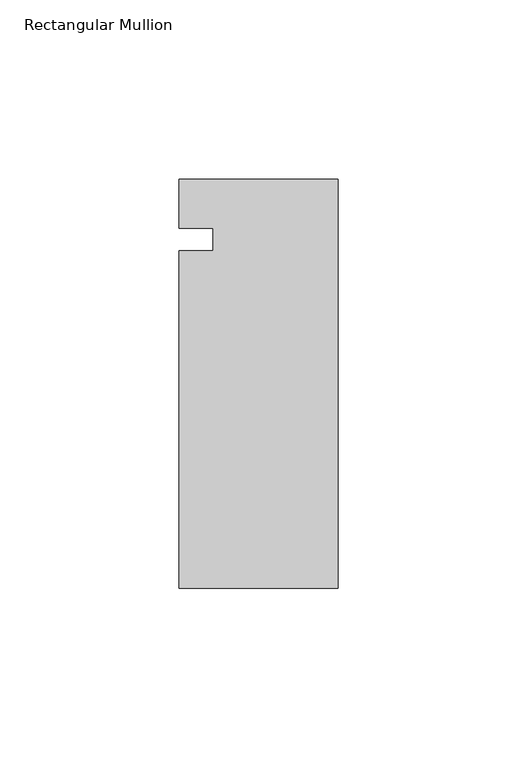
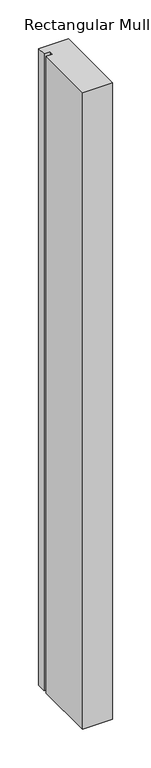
"""IFC4 building model written with IfcOpenShell, lengths in millimetres: member geometry, Rectangular Mullion : Kawneer-TRIFAB_VG_450_BACK_SB_Sill."""

from ifc_helpers import new_model, si_unit, frame, origin, place, context, project, spatial, polyline, outline, extrude, source, transform, mapped, element, save


def rectangular_mullion_f3aea93a(model_context):
    return source(origin(), model_context, "Body", "SweptSolid", [
        extrude(outline(polyline([(-44.45, 16.8840492), (0.0, 16.8840492), (0.0, -97.4159508), (-44.45, -97.4159508), (-44.45, -3.175), (-34.925, -3.175), (-34.925, 3.175), (-44.45, 3.175), (-44.45, 16.8840492)])), frame((0.0, 0.0, -1004.1094133), z_axis=(0.0, 0.0, 1.0), x_axis=(1.0, 0.0, 0.0)), (0.0, 0.0, 1.0), 1004.1094133),
    ])


if __name__ == "__main__":
    model = new_model("IFC4")
    model_context = context("Model", 3, world=origin())
    ifc_project = project(units=[si_unit("LENGTHUNIT", "METRE", prefix="MILLI")], contexts=[model_context])
    site = spatial("IfcSite", under=ifc_project)
    building = spatial("IfcBuilding", under=site)
    placement = place(None, origin())
    rectangular_mullion_shape = rectangular_mullion_f3aea93a(model_context)
    element("IfcMember", 1, ObjectType="Rectangular Mullion : Kawneer-TRIFAB_VG_450_BACK_SB_Sill", at=placement, inside=building, context=model_context, shape_type="MappedRepresentation", body=[
        mapped(rectangular_mullion_shape, transform((0.0, 0.0, 0.0), x_axis=(1.0, 0.0, 0.0), y_axis=(0.0, 1.0, 0.0), z_axis=(0.0, 0.0, 1.0))),
    ])
    save(model, "model.ifc")
